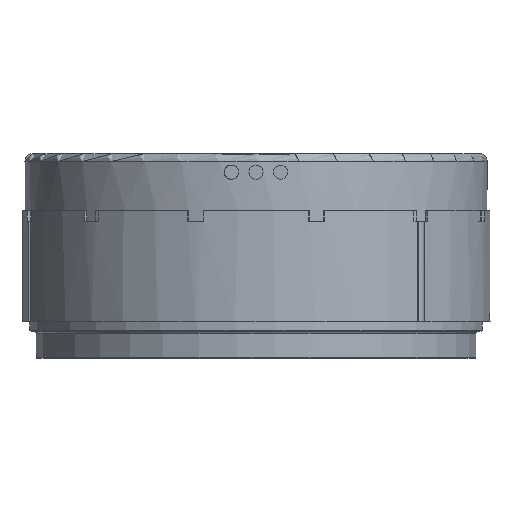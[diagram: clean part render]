
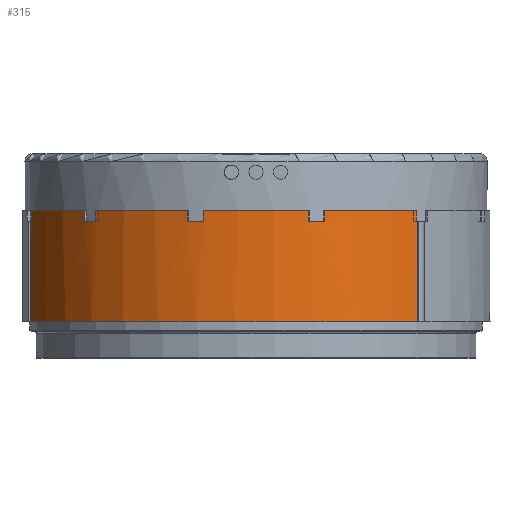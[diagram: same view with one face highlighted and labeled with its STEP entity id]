
A CAD part, front view. The second image highlights one B-rep face of the part: STEP entity #315.
In plain terms, the highlighted cylindrical face has radius 44.978 mm (diameter 89.957 mm), a partial arc.
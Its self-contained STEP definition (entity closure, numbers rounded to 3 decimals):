
#232=CYLINDRICAL_SURFACE('',#5097,44.978);
#315=ADVANCED_FACE('',(#776),#232,.T.);
#776=FACE_OUTER_BOUND('',#1032,.T.);
#1032=EDGE_LOOP('',(#2186,#2187,#2188,#2189,#2190,#2191,#2192,#2193,#2194,
#2195,#2196,#2197,#2198,#2199,#2200,#2201,#2202,#2203,#2204,#2205));
#1349=LINE('',#7067,#1758);
#1350=LINE('',#7071,#1759);
#1351=LINE('',#7075,#1760);
#1352=LINE('',#7079,#1761);
#1353=LINE('',#7083,#1762);
#1354=LINE('',#7087,#1763);
#1355=LINE('',#7091,#1764);
#1356=LINE('',#7095,#1765);
#1357=LINE('',#7099,#1766);
#1358=LINE('',#7100,#1767);
#1758=VECTOR('',#5620,1.);
#1759=VECTOR('',#5623,1.);
#1760=VECTOR('',#5626,1.);
#1761=VECTOR('',#5629,1.);
#1762=VECTOR('',#5632,1.);
#1763=VECTOR('',#5635,1.);
#1764=VECTOR('',#5638,1.);
#1765=VECTOR('',#5641,1.);
#1766=VECTOR('',#5644,1.);
#1767=VECTOR('',#5645,1.);
#2186=ORIENTED_EDGE('',*,*,#4120,.T.);
#2187=ORIENTED_EDGE('',*,*,#4121,.T.);
#2188=ORIENTED_EDGE('',*,*,#4122,.F.);
#2189=ORIENTED_EDGE('',*,*,#4123,.F.);
#2190=ORIENTED_EDGE('',*,*,#4124,.F.);
#2191=ORIENTED_EDGE('',*,*,#4125,.F.);
#2192=ORIENTED_EDGE('',*,*,#4126,.F.);
#2193=ORIENTED_EDGE('',*,*,#4127,.F.);
#2194=ORIENTED_EDGE('',*,*,#4128,.F.);
#2195=ORIENTED_EDGE('',*,*,#4129,.F.);
#2196=ORIENTED_EDGE('',*,*,#4130,.F.);
#2197=ORIENTED_EDGE('',*,*,#4131,.F.);
#2198=ORIENTED_EDGE('',*,*,#4132,.F.);
#2199=ORIENTED_EDGE('',*,*,#4133,.F.);
#2200=ORIENTED_EDGE('',*,*,#4134,.F.);
#2201=ORIENTED_EDGE('',*,*,#4135,.F.);
#2202=ORIENTED_EDGE('',*,*,#4136,.F.);
#2203=ORIENTED_EDGE('',*,*,#4137,.F.);
#2204=ORIENTED_EDGE('',*,*,#4113,.F.);
#2205=ORIENTED_EDGE('',*,*,#4138,.T.);
#3624=VERTEX_POINT('',#7047);
#3626=VERTEX_POINT('',#7050);
#3632=VERTEX_POINT('',#7065);
#3633=VERTEX_POINT('',#7066);
#3634=VERTEX_POINT('',#7068);
#3635=VERTEX_POINT('',#7070);
#3636=VERTEX_POINT('',#7072);
#3637=VERTEX_POINT('',#7074);
#3638=VERTEX_POINT('',#7076);
#3639=VERTEX_POINT('',#7078);
#3640=VERTEX_POINT('',#7080);
#3641=VERTEX_POINT('',#7082);
#3642=VERTEX_POINT('',#7084);
#3643=VERTEX_POINT('',#7086);
#3644=VERTEX_POINT('',#7088);
#3645=VERTEX_POINT('',#7090);
#3646=VERTEX_POINT('',#7092);
#3647=VERTEX_POINT('',#7094);
#3648=VERTEX_POINT('',#7096);
#3649=VERTEX_POINT('',#7098);
#4113=EDGE_CURVE('',#3624,#3626,#4835,.T.);
#4120=EDGE_CURVE('',#3632,#3633,#4840,.T.);
#4121=EDGE_CURVE('',#3633,#3634,#1349,.T.);
#4122=EDGE_CURVE('',#3635,#3634,#4841,.T.);
#4123=EDGE_CURVE('',#3636,#3635,#1350,.T.);
#4124=EDGE_CURVE('',#3637,#3636,#4842,.T.);
#4125=EDGE_CURVE('',#3638,#3637,#1351,.T.);
#4126=EDGE_CURVE('',#3639,#3638,#4843,.T.);
#4127=EDGE_CURVE('',#3640,#3639,#1352,.T.);
#4128=EDGE_CURVE('',#3641,#3640,#4844,.T.);
#4129=EDGE_CURVE('',#3642,#3641,#1353,.T.);
#4130=EDGE_CURVE('',#3643,#3642,#4845,.T.);
#4131=EDGE_CURVE('',#3644,#3643,#1354,.T.);
#4132=EDGE_CURVE('',#3645,#3644,#4846,.T.);
#4133=EDGE_CURVE('',#3646,#3645,#1355,.T.);
#4134=EDGE_CURVE('',#3647,#3646,#4847,.T.);
#4135=EDGE_CURVE('',#3648,#3647,#1356,.T.);
#4136=EDGE_CURVE('',#3649,#3648,#4848,.T.);
#4137=EDGE_CURVE('',#3626,#3649,#1357,.T.);
#4138=EDGE_CURVE('',#3624,#3632,#1358,.T.);
#4835=CIRCLE('',#5081,44.978);
#4840=CIRCLE('',#5088,44.978);
#4841=CIRCLE('',#5089,44.978);
#4842=CIRCLE('',#5090,44.978);
#4843=CIRCLE('',#5091,44.978);
#4844=CIRCLE('',#5092,44.978);
#4845=CIRCLE('',#5093,44.978);
#4846=CIRCLE('',#5094,44.978);
#4847=CIRCLE('',#5095,44.978);
#4848=CIRCLE('',#5096,44.978);
#5081=AXIS2_PLACEMENT_3D('',#7049,#5602,#5603);
#5088=AXIS2_PLACEMENT_3D('',#7064,#5618,#5619);
#5089=AXIS2_PLACEMENT_3D('',#7069,#5621,#5622);
#5090=AXIS2_PLACEMENT_3D('',#7073,#5624,#5625);
#5091=AXIS2_PLACEMENT_3D('',#7077,#5627,#5628);
#5092=AXIS2_PLACEMENT_3D('',#7081,#5630,#5631);
#5093=AXIS2_PLACEMENT_3D('',#7085,#5633,#5634);
#5094=AXIS2_PLACEMENT_3D('',#7089,#5636,#5637);
#5095=AXIS2_PLACEMENT_3D('',#7093,#5639,#5640);
#5096=AXIS2_PLACEMENT_3D('',#7097,#5642,#5643);
#5097=AXIS2_PLACEMENT_3D('',#7101,#5646,#5647);
#5602=DIRECTION('',(0.,0.,1.));
#5603=DIRECTION('',(1.,0.,0.));
#5618=DIRECTION('',(0.,0.,1.));
#5619=DIRECTION('',(-1.,0.,0.));
#5620=DIRECTION('',(0.,0.,1.));
#5621=DIRECTION('',(0.,0.,1.));
#5622=DIRECTION('',(1.,0.,0.));
#5623=DIRECTION('',(0.,0.,-1.));
#5624=DIRECTION('',(0.,0.,1.));
#5625=DIRECTION('',(-1.,0.,0.));
#5626=DIRECTION('',(0.,0.,1.));
#5627=DIRECTION('',(0.,0.,1.));
#5628=DIRECTION('',(1.,0.,0.));
#5629=DIRECTION('',(0.,0.,-1.));
#5630=DIRECTION('',(0.,0.,1.));
#5631=DIRECTION('',(-1.,0.,0.));
#5632=DIRECTION('',(0.,0.,1.));
#5633=DIRECTION('',(0.,0.,1.));
#5634=DIRECTION('',(1.,0.,0.));
#5635=DIRECTION('',(0.,0.,-1.));
#5636=DIRECTION('',(0.,0.,1.));
#5637=DIRECTION('',(-1.,0.,0.));
#5638=DIRECTION('',(0.,0.,1.));
#5639=DIRECTION('',(0.,0.,1.));
#5640=DIRECTION('',(1.,0.,0.));
#5641=DIRECTION('',(0.,0.,-1.));
#5642=DIRECTION('',(0.,0.,1.));
#5643=DIRECTION('',(-1.,0.,0.));
#5644=DIRECTION('',(0.,0.,1.));
#5645=DIRECTION('',(0.,0.,-1.));
#5646=DIRECTION('',(0.,0.,-1.));
#5647=DIRECTION('',(0.707,0.707,0.));
#7047=CARTESIAN_POINT('',(-43.232,-12.412,8.575));
#7049=CARTESIAN_POINT('',(0.,0.,8.575));
#7050=CARTESIAN_POINT('',(-43.026,-13.108,8.575));
#7064=CARTESIAN_POINT('',(0.,0.,-10.675));
#7065=CARTESIAN_POINT('',(-43.232,-12.412,-10.675));
#7066=CARTESIAN_POINT('',(31.234,-32.365,-10.675));
#7067=CARTESIAN_POINT('',(31.234,-32.365,-5.863));
#7068=CARTESIAN_POINT('',(31.234,-32.365,8.575));
#7069=CARTESIAN_POINT('',(0.,0.,8.575));
#7070=CARTESIAN_POINT('',(30.708,-32.864,8.575));
#7071=CARTESIAN_POINT('',(30.708,-32.864,10.675));
#7072=CARTESIAN_POINT('',(30.708,-32.864,10.675));
#7073=CARTESIAN_POINT('',(0.,0.,10.675));
#7074=CARTESIAN_POINT('',(13.108,-43.026,10.675));
#7075=CARTESIAN_POINT('',(13.108,-43.026,10.675));
#7076=CARTESIAN_POINT('',(13.108,-43.026,8.575));
#7077=CARTESIAN_POINT('',(0.,0.,8.575));
#7078=CARTESIAN_POINT('',(10.161,-43.815,8.575));
#7079=CARTESIAN_POINT('',(10.161,-43.815,10.675));
#7080=CARTESIAN_POINT('',(10.161,-43.815,10.675));
#7081=CARTESIAN_POINT('',(0.,0.,10.675));
#7082=CARTESIAN_POINT('',(-10.161,-43.815,10.675));
#7083=CARTESIAN_POINT('',(-10.161,-43.815,10.675));
#7084=CARTESIAN_POINT('',(-10.161,-43.815,8.575));
#7085=CARTESIAN_POINT('',(0.,0.,8.575));
#7086=CARTESIAN_POINT('',(-13.108,-43.026,8.575));
#7087=CARTESIAN_POINT('',(-13.108,-43.026,10.675));
#7088=CARTESIAN_POINT('',(-13.108,-43.026,10.675));
#7089=CARTESIAN_POINT('',(0.,0.,10.675));
#7090=CARTESIAN_POINT('',(-30.708,-32.864,10.675));
#7091=CARTESIAN_POINT('',(-30.708,-32.864,10.675));
#7092=CARTESIAN_POINT('',(-30.708,-32.864,8.575));
#7093=CARTESIAN_POINT('',(0.,0.,8.575));
#7094=CARTESIAN_POINT('',(-32.864,-30.708,8.575));
#7095=CARTESIAN_POINT('',(-32.864,-30.708,10.675));
#7096=CARTESIAN_POINT('',(-32.864,-30.708,10.675));
#7097=CARTESIAN_POINT('',(0.,0.,10.675));
#7098=CARTESIAN_POINT('',(-43.026,-13.108,10.675));
#7099=CARTESIAN_POINT('',(-43.026,-13.108,10.675));
#7100=CARTESIAN_POINT('',(-43.232,-12.412,-5.863));
#7101=CARTESIAN_POINT('',(0.,0.,10.675));
